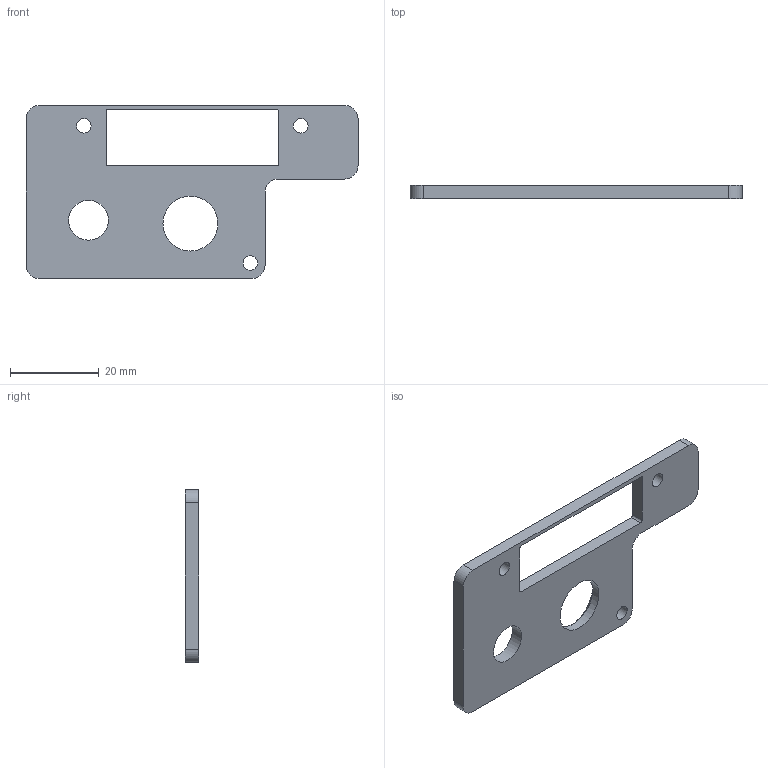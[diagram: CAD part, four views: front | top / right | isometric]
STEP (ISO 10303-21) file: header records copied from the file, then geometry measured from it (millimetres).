
FILE_DESCRIPTION(/* description */ (''),/* implementation_level */ '2;1');
FILE_NAME(/* name */ 'D:/projects/arduino_micro_HID_macro_keyboard/3D CAD files/Top_Cover.step',/* time_stamp */ '2021-09-17T21:12:38+08:00',/* author */ (''),/* organization */ (''),/* preprocessor_version */ 'ST-DEVELOPER v18.1',/* originating_system */ 'Autodesk Translation Framework v10.10.0.1391',/* authorisation */ '');
FILE_SCHEMA (('AUTOMOTIVE_DESIGN { 1 0 10303 214 3 1 1 }'));
Length unit declared in the file: millimetre
Products named in the file (1): encoder+rst top cover
Bounding box: 75 x 3 x 39.13 mm (x, y, z)
Volume: 5228.8 mm3; surface area: 4742.8 mm2
Topology: 1 solids, 1 shells, 28 faces, 77 edges, 51 vertices
Faces by surface type: cylinder 15, plane 12, cone 1
Full cylindrical faces by diameter (mm): 3.3 x3, 9 x1, 12.4 x1
Entity records: 968 total; most frequent: DIRECTION 166, CARTESIAN_POINT 157, ORIENTED_EDGE 154, EDGE_CURVE 77, AXIS2_PLACEMENT_3D 60, VERTEX_POINT 51, LINE 46, VECTOR 46
